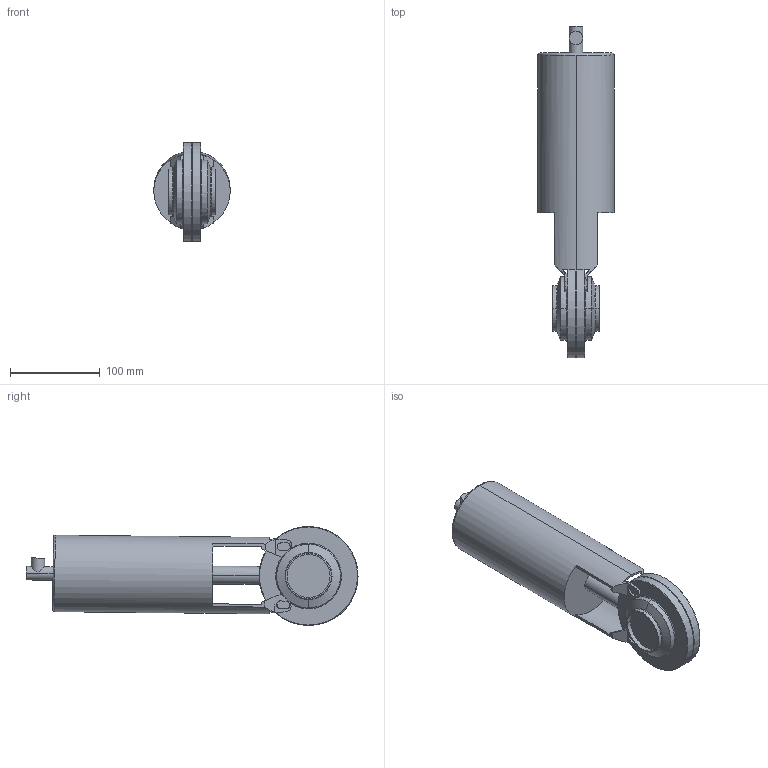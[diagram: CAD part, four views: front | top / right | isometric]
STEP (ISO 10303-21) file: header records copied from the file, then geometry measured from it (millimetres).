
FILE_DESCRIPTION(('Creo Elements/Direct Modeling STEP Export'),'2;1');
FILE_NAME('SV1-2T-FZ-12S.stp','2015-11-20T10:22:37',(''),(''),'PTC Creo Elements/Direct Modeling STEP processor for AP214 (Solid Model)','PTC Creo Elements/Direct Modeling 19.0B 21-Mar-2015 (C) Parametric Technology GmbH','');
FILE_SCHEMA(('AUTOMOTIVE_DESIGN { 1 0 10303 214 1 1 1 1 }'));
Length unit declared in the file: millimetre
Products named in the file (2): SV1-2T-FZ-12S
Assembly tree (1 placements, depth 2):
  SV1-2T-FZ-12S
    SV1-2T-FZ-12S
Bounding box: 85 x 369.06 x 110 mm (x, y, z)
Volume: 1321007.2 mm3; surface area: 111118.6 mm2
Topology: 1 solids, 1 shells, 135 faces, 375 edges, 242 vertices
Faces by surface type: plane 76, cylinder 37, cone 12, torus 10
Entity records: 5283 total; most frequent: CARTESIAN_POINT 1976, ORIENTED_EDGE 750, DIRECTION 632, EDGE_CURVE 375, VERTEX_POINT 242, AXIS2_PLACEMENT_3D 220, VECTOR 192, LINE 192
